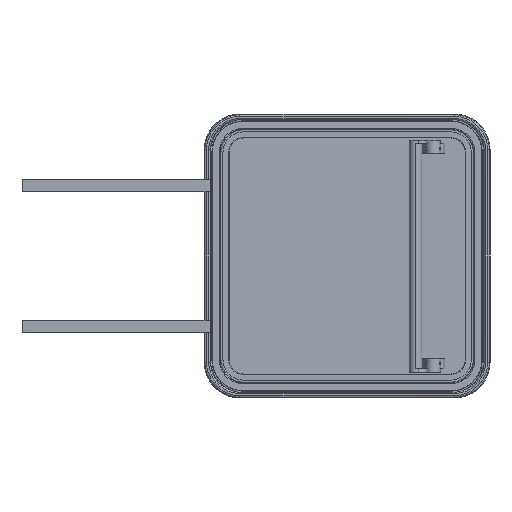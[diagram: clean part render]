
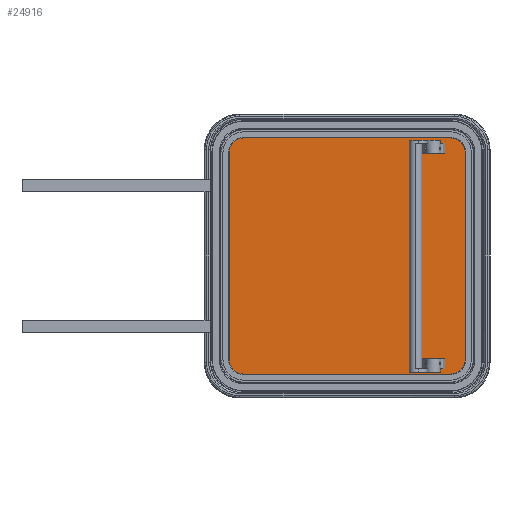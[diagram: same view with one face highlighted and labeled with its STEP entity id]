
A CAD part, front view. The second image highlights one B-rep face of the part: STEP entity #24916.
In plain terms, the highlighted planar face has unit normal (0, -1, 0).
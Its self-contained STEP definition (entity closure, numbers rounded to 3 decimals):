
#24161=CARTESIAN_POINT('',(-213.,0.,215.));
#24162=DIRECTION('',(0.,1.,0.));
#24163=DIRECTION('',(-1.,0.,0.));
#24164=AXIS2_PLACEMENT_3D('',#24161,#24162,#24163);
#24166=CARTESIAN_POINT('',(213.,0.,215.));
#24167=DIRECTION('',(0.,1.,0.));
#24168=DIRECTION('',(0.,0.,1.));
#24169=AXIS2_PLACEMENT_3D('',#24166,#24167,#24168);
#24171=CARTESIAN_POINT('',(213.,0.,-215.));
#24172=DIRECTION('',(0.,1.,0.));
#24173=DIRECTION('',(1.,0.,0.));
#24174=AXIS2_PLACEMENT_3D('',#24171,#24172,#24173);
#24176=CARTESIAN_POINT('',(-213.,0.,-215.));
#24177=DIRECTION('',(0.,1.,0.));
#24178=DIRECTION('',(0.,0.,-1.));
#24179=AXIS2_PLACEMENT_3D('',#24176,#24177,#24178);
#24181=CARTESIAN_POINT('',(-218.5,0.,159.5));
#24182=DIRECTION('',(0.,-1.,0.));
#24183=DIRECTION('',(-1.,0.,0.));
#24184=AXIS2_PLACEMENT_3D('',#24181,#24182,#24183);
#24186=CARTESIAN_POINT('',(-218.5,0.,159.5));
#24187=DIRECTION('',(0.,-1.,0.));
#24188=DIRECTION('',(0.,0.,-1.));
#24189=AXIS2_PLACEMENT_3D('',#24186,#24187,#24188);
#24191=DIRECTION('',(0.,0.,1.));
#24192=VECTOR('',#24191,29.);
#24193=CARTESIAN_POINT('',(-213.,0.,159.5));
#24194=LINE('',#24193,#24192);
#24195=CARTESIAN_POINT('',(-218.5,0.,188.5));
#24196=DIRECTION('',(0.,-1.,0.));
#24197=DIRECTION('',(1.,0.,0.));
#24198=AXIS2_PLACEMENT_3D('',#24195,#24196,#24197);
#24200=CARTESIAN_POINT('',(-218.5,0.,188.5));
#24201=DIRECTION('',(0.,-1.,0.));
#24202=DIRECTION('',(0.,0.,1.));
#24203=AXIS2_PLACEMENT_3D('',#24200,#24201,#24202);
#24205=DIRECTION('',(0.,0.,-1.));
#24206=VECTOR('',#24205,29.);
#24207=CARTESIAN_POINT('',(-224.,0.,188.5));
#24208=LINE('',#24207,#24206);
#24209=CARTESIAN_POINT('',(218.5,0.,159.5));
#24210=DIRECTION('',(0.,-1.,0.));
#24211=DIRECTION('',(-1.,0.,0.));
#24212=AXIS2_PLACEMENT_3D('',#24209,#24210,#24211);
#24214=CARTESIAN_POINT('',(218.5,0.,159.5));
#24215=DIRECTION('',(0.,-1.,0.));
#24216=DIRECTION('',(0.,0.,-1.));
#24217=AXIS2_PLACEMENT_3D('',#24214,#24215,#24216);
#24219=CARTESIAN_POINT('',(218.5,0.,188.5));
#24220=DIRECTION('',(0.,-1.,0.));
#24221=DIRECTION('',(1.,0.,0.));
#24222=AXIS2_PLACEMENT_3D('',#24219,#24220,#24221);
#24224=CARTESIAN_POINT('',(218.5,0.,188.5));
#24225=DIRECTION('',(0.,-1.,0.));
#24226=DIRECTION('',(0.,0.,1.));
#24227=AXIS2_PLACEMENT_3D('',#24224,#24225,#24226);
#24229=DIRECTION('',(0.,0.,-1.));
#24230=VECTOR('',#24229,430.);
#24231=CARTESIAN_POINT('',(-269.5,0.,215.));
#24232=LINE('',#24231,#24230);
#24297=DIRECTION('',(1.,0.,0.));
#24298=VECTOR('',#24297,426.);
#24299=CARTESIAN_POINT('',(-213.,0.,-271.5));
#24300=LINE('',#24299,#24298);
#24309=DIRECTION('',(0.,0.,1.));
#24310=VECTOR('',#24309,430.);
#24311=CARTESIAN_POINT('',(269.5,0.,-215.));
#24312=LINE('',#24311,#24310);
#24321=DIRECTION('',(-1.,0.,0.));
#24322=VECTOR('',#24321,426.);
#24323=CARTESIAN_POINT('',(213.,0.,271.5));
#24324=LINE('',#24323,#24322);
#24641=DIRECTION('',(0.,0.,1.));
#24642=VECTOR('',#24641,29.);
#24643=CARTESIAN_POINT('',(213.,0.,159.5));
#24644=LINE('',#24643,#24642);
#24653=DIRECTION('',(0.,0.,-1.));
#24654=VECTOR('',#24653,29.);
#24655=CARTESIAN_POINT('',(224.,0.,188.5));
#24656=LINE('',#24655,#24654);
#24705=CARTESIAN_POINT('',(-269.5,0.,215.));
#24706=CARTESIAN_POINT('',(-269.5,0.,-215.));
#24707=VERTEX_POINT('',#24705);
#24708=VERTEX_POINT('',#24706);
#24709=CARTESIAN_POINT('',(-213.,0.,271.5));
#24710=VERTEX_POINT('',#24709);
#24711=CARTESIAN_POINT('',(213.,0.,271.5));
#24712=VERTEX_POINT('',#24711);
#24713=CARTESIAN_POINT('',(269.5,0.,215.));
#24714=VERTEX_POINT('',#24713);
#24715=CARTESIAN_POINT('',(269.5,0.,-215.));
#24716=VERTEX_POINT('',#24715);
#24717=CARTESIAN_POINT('',(213.,0.,-271.5));
#24718=VERTEX_POINT('',#24717);
#24719=CARTESIAN_POINT('',(-213.,0.,-271.5));
#24720=VERTEX_POINT('',#24719);
#24721=CARTESIAN_POINT('',(-218.5,0.,154.));
#24722=CARTESIAN_POINT('',(-213.,0.,159.5));
#24723=VERTEX_POINT('',#24721);
#24724=VERTEX_POINT('',#24722);
#24725=CARTESIAN_POINT('',(-224.,0.,159.5));
#24726=VERTEX_POINT('',#24725);
#24727=CARTESIAN_POINT('',(-213.,0.,188.5));
#24728=VERTEX_POINT('',#24727);
#24729=CARTESIAN_POINT('',(-218.5,0.,194.));
#24730=CARTESIAN_POINT('',(-224.,0.,188.5));
#24731=VERTEX_POINT('',#24729);
#24732=VERTEX_POINT('',#24730);
#24733=CARTESIAN_POINT('',(213.,0.,159.5));
#24734=CARTESIAN_POINT('',(218.5,0.,154.));
#24735=VERTEX_POINT('',#24733);
#24736=VERTEX_POINT('',#24734);
#24737=CARTESIAN_POINT('',(224.,0.,159.5));
#24738=VERTEX_POINT('',#24737);
#24739=CARTESIAN_POINT('',(224.,0.,188.5));
#24740=VERTEX_POINT('',#24739);
#24741=CARTESIAN_POINT('',(218.5,0.,194.));
#24742=VERTEX_POINT('',#24741);
#24743=CARTESIAN_POINT('',(213.,0.,188.5));
#24744=VERTEX_POINT('',#24743);
#24865=CARTESIAN_POINT('',(0.,0.,0.));
#24866=DIRECTION('',(0.,1.,0.));
#24867=DIRECTION('',(1.,0.,0.));
#24868=AXIS2_PLACEMENT_3D('',#24865,#24866,#24867);
#24869=PLANE('',#24868);
#24871=ORIENTED_EDGE('',*,*,#24870,.F.);
#24873=ORIENTED_EDGE('',*,*,#24872,.T.);
#24875=ORIENTED_EDGE('',*,*,#24874,.F.);
#24877=ORIENTED_EDGE('',*,*,#24876,.T.);
#24879=ORIENTED_EDGE('',*,*,#24878,.F.);
#24881=ORIENTED_EDGE('',*,*,#24880,.T.);
#24883=ORIENTED_EDGE('',*,*,#24882,.F.);
#24885=ORIENTED_EDGE('',*,*,#24884,.T.);
#24886=EDGE_LOOP('',(#24871,#24873,#24875,#24877,#24879,#24881,#24883,#24885));
#24887=FACE_OUTER_BOUND('',#24886,.F.);
#24889=ORIENTED_EDGE('',*,*,#24888,.T.);
#24891=ORIENTED_EDGE('',*,*,#24890,.T.);
#24893=ORIENTED_EDGE('',*,*,#24892,.T.);
#24895=ORIENTED_EDGE('',*,*,#24894,.T.);
#24897=ORIENTED_EDGE('',*,*,#24896,.T.);
#24899=ORIENTED_EDGE('',*,*,#24898,.T.);
#24900=EDGE_LOOP('',(#24889,#24891,#24893,#24895,#24897,#24899));
#24901=FACE_BOUND('',#24900,.F.);
#24903=ORIENTED_EDGE('',*,*,#24902,.T.);
#24905=ORIENTED_EDGE('',*,*,#24904,.T.);
#24907=ORIENTED_EDGE('',*,*,#24906,.F.);
#24909=ORIENTED_EDGE('',*,*,#24908,.T.);
#24911=ORIENTED_EDGE('',*,*,#24910,.T.);
#24913=ORIENTED_EDGE('',*,*,#24912,.F.);
#24914=EDGE_LOOP('',(#24903,#24905,#24907,#24909,#24911,#24913));
#24915=FACE_BOUND('',#24914,.F.);
#24916=ADVANCED_FACE('',(#24887,#24901,#24915),#24869,.F.);
#24165=CIRCLE('',#24164,56.5);
#24170=CIRCLE('',#24169,56.5);
#24175=CIRCLE('',#24174,56.5);
#24180=CIRCLE('',#24179,56.5);
#24185=CIRCLE('',#24184,5.5);
#24190=CIRCLE('',#24189,5.5);
#24199=CIRCLE('',#24198,5.5);
#24204=CIRCLE('',#24203,5.5);
#24213=CIRCLE('',#24212,5.5);
#24218=CIRCLE('',#24217,5.5);
#24223=CIRCLE('',#24222,5.5);
#24228=CIRCLE('',#24227,5.5);
#24870=EDGE_CURVE('',#24707,#24708,#24232,.T.);
#24872=EDGE_CURVE('',#24707,#24710,#24165,.T.);
#24874=EDGE_CURVE('',#24712,#24710,#24324,.T.);
#24876=EDGE_CURVE('',#24712,#24714,#24170,.T.);
#24878=EDGE_CURVE('',#24716,#24714,#24312,.T.);
#24880=EDGE_CURVE('',#24716,#24718,#24175,.T.);
#24882=EDGE_CURVE('',#24720,#24718,#24300,.T.);
#24884=EDGE_CURVE('',#24720,#24708,#24180,.T.);
#24888=EDGE_CURVE('',#24726,#24723,#24185,.T.);
#24890=EDGE_CURVE('',#24723,#24724,#24190,.T.);
#24892=EDGE_CURVE('',#24724,#24728,#24194,.T.);
#24894=EDGE_CURVE('',#24728,#24731,#24199,.T.);
#24896=EDGE_CURVE('',#24731,#24732,#24204,.T.);
#24898=EDGE_CURVE('',#24732,#24726,#24208,.T.);
#24902=EDGE_CURVE('',#24735,#24736,#24213,.T.);
#24904=EDGE_CURVE('',#24736,#24738,#24218,.T.);
#24906=EDGE_CURVE('',#24740,#24738,#24656,.T.);
#24908=EDGE_CURVE('',#24740,#24742,#24223,.T.);
#24910=EDGE_CURVE('',#24742,#24744,#24228,.T.);
#24912=EDGE_CURVE('',#24735,#24744,#24644,.T.);
